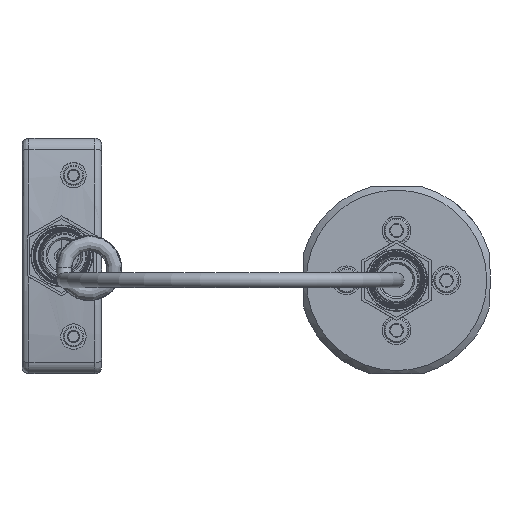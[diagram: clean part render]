
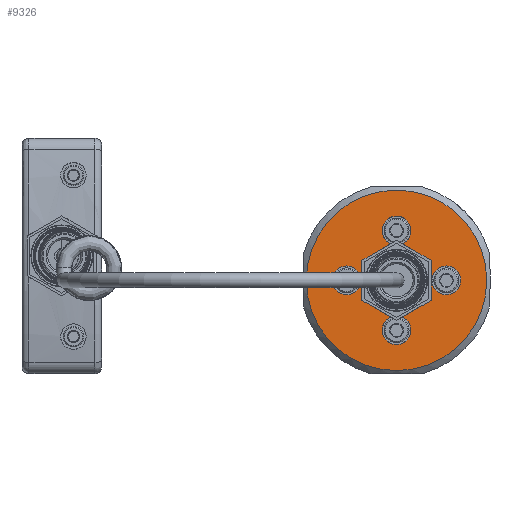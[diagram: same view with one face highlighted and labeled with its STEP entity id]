
A CAD part, left-side view. The second image highlights one B-rep face of the part: STEP entity #9326.
In plain terms, the highlighted planar face has unit normal (-1, 0, 0).
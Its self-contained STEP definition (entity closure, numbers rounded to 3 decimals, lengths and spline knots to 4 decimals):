
#333=FACE_BOUND('',#1350,.T.);
#334=FACE_BOUND('',#1351,.T.);
#335=FACE_BOUND('',#1352,.T.);
#416=PLANE('',#10012);
#760=FACE_OUTER_BOUND('',#1349,.T.);
#1349=EDGE_LOOP('',(#6673,#6674));
#1350=EDGE_LOOP('',(#6675,#6676,#6677,#6678,#6679,#6680,#6681,#6682,#6683));
#1351=EDGE_LOOP('',(#6684,#6685));
#1352=EDGE_LOOP('',(#6686,#6687));
#1902=CIRCLE('',#9867,0.815);
#1903=CIRCLE('',#9868,0.815);
#1904=CIRCLE('',#9871,0.13);
#1905=CIRCLE('',#9872,0.13);
#1908=CIRCLE('',#9876,0.13);
#1913=CIRCLE('',#9882,0.13);
#1914=CIRCLE('',#9883,0.13);
#1971=CIRCLE('',#10013,0.13);
#1972=CIRCLE('',#10014,0.13);
#2865=LINE('',#16920,#3320);
#2866=LINE('',#16922,#3321);
#2867=LINE('',#16924,#3322);
#2868=LINE('',#16930,#3323);
#2869=LINE('',#16932,#3324);
#2870=LINE('',#16933,#3325);
#3320=VECTOR('',#11146,1.);
#3321=VECTOR('',#11147,1.);
#3322=VECTOR('',#11148,1.);
#3323=VECTOR('',#11153,1.);
#3324=VECTOR('',#11154,1.);
#3325=VECTOR('',#11155,1.);
#3833=VERTEX_POINT('',#16391);
#3834=VERTEX_POINT('',#16392);
#3835=VERTEX_POINT('',#16399);
#3836=VERTEX_POINT('',#16400);
#3840=VERTEX_POINT('',#16410);
#3841=VERTEX_POINT('',#16412);
#3846=VERTEX_POINT('',#16425);
#3847=VERTEX_POINT('',#16426);
#3932=VERTEX_POINT('',#16919);
#3933=VERTEX_POINT('',#16921);
#3934=VERTEX_POINT('',#16923);
#3935=VERTEX_POINT('',#16925);
#3936=VERTEX_POINT('',#16927);
#3937=VERTEX_POINT('',#16929);
#3938=VERTEX_POINT('',#16931);
#4816=EDGE_CURVE('',#3833,#3834,#1902,.T.);
#4817=EDGE_CURVE('',#3834,#3833,#1903,.T.);
#4820=EDGE_CURVE('',#3835,#3836,#1904,.T.);
#4821=EDGE_CURVE('',#3836,#3835,#1905,.T.);
#4826=EDGE_CURVE('',#3841,#3840,#1908,.T.);
#4833=EDGE_CURVE('',#3846,#3847,#1913,.T.);
#4834=EDGE_CURVE('',#3847,#3846,#1914,.T.);
#4980=EDGE_CURVE('',#3840,#3932,#2865,.T.);
#4981=EDGE_CURVE('',#3932,#3933,#2866,.T.);
#4982=EDGE_CURVE('',#3933,#3934,#2867,.T.);
#4983=EDGE_CURVE('',#3934,#3935,#1971,.T.);
#4984=EDGE_CURVE('',#3935,#3936,#1972,.T.);
#4985=EDGE_CURVE('',#3936,#3937,#2868,.T.);
#4986=EDGE_CURVE('',#3937,#3938,#2869,.T.);
#4987=EDGE_CURVE('',#3938,#3841,#2870,.T.);
#6673=ORIENTED_EDGE('',*,*,#4816,.T.);
#6674=ORIENTED_EDGE('',*,*,#4817,.T.);
#6675=ORIENTED_EDGE('',*,*,#4980,.T.);
#6676=ORIENTED_EDGE('',*,*,#4981,.T.);
#6677=ORIENTED_EDGE('',*,*,#4982,.T.);
#6678=ORIENTED_EDGE('',*,*,#4983,.T.);
#6679=ORIENTED_EDGE('',*,*,#4984,.T.);
#6680=ORIENTED_EDGE('',*,*,#4985,.T.);
#6681=ORIENTED_EDGE('',*,*,#4986,.T.);
#6682=ORIENTED_EDGE('',*,*,#4987,.T.);
#6683=ORIENTED_EDGE('',*,*,#4826,.T.);
#6684=ORIENTED_EDGE('',*,*,#4820,.T.);
#6685=ORIENTED_EDGE('',*,*,#4821,.T.);
#6686=ORIENTED_EDGE('',*,*,#4833,.T.);
#6687=ORIENTED_EDGE('',*,*,#4834,.T.);
#9326=ADVANCED_FACE('',(#760,#333,#334,#335),#416,.T.);
#9867=AXIS2_PLACEMENT_3D('',#16393,#10787,#10788);
#9868=AXIS2_PLACEMENT_3D('',#16394,#10789,#10790);
#9871=AXIS2_PLACEMENT_3D('',#16401,#10797,#10798);
#9872=AXIS2_PLACEMENT_3D('',#16402,#10799,#10800);
#9876=AXIS2_PLACEMENT_3D('',#16413,#10809,#10810);
#9882=AXIS2_PLACEMENT_3D('',#16427,#10823,#10824);
#9883=AXIS2_PLACEMENT_3D('',#16428,#10825,#10826);
#10012=AXIS2_PLACEMENT_3D('',#16918,#11144,#11145);
#10013=AXIS2_PLACEMENT_3D('',#16926,#11149,#11150);
#10014=AXIS2_PLACEMENT_3D('',#16928,#11151,#11152);
#10787=DIRECTION('center_axis',(-1.,0.,0.));
#10788=DIRECTION('ref_axis',(0.,0.,-1.));
#10789=DIRECTION('center_axis',(-1.,0.,0.));
#10790=DIRECTION('ref_axis',(0.,0.,-1.));
#10797=DIRECTION('center_axis',(1.,0.,0.));
#10798=DIRECTION('ref_axis',(0.,0.,-1.));
#10799=DIRECTION('center_axis',(1.,0.,0.));
#10800=DIRECTION('ref_axis',(0.,0.,-1.));
#10809=DIRECTION('center_axis',(1.,0.,0.));
#10810=DIRECTION('ref_axis',(0.,0.,-1.));
#10823=DIRECTION('center_axis',(1.,0.,0.));
#10824=DIRECTION('ref_axis',(0.,0.,-1.));
#10825=DIRECTION('center_axis',(1.,0.,0.));
#10826=DIRECTION('ref_axis',(0.,0.,-1.));
#11144=DIRECTION('center_axis',(-1.,0.,0.));
#11145=DIRECTION('ref_axis',(0.,0.,1.));
#11146=DIRECTION('',(0.,0.866,0.5));
#11147=DIRECTION('',(0.,0.,1.));
#11148=DIRECTION('',(0.,-0.866,0.5));
#11149=DIRECTION('center_axis',(1.,0.,0.));
#11150=DIRECTION('ref_axis',(0.,0.,-1.));
#11151=DIRECTION('center_axis',(1.,0.,0.));
#11152=DIRECTION('ref_axis',(0.,0.,-1.));
#11153=DIRECTION('',(0.,-0.866,-0.5));
#11154=DIRECTION('',(0.,0.,-1.));
#11155=DIRECTION('',(0.,0.866,-0.5));
#16391=CARTESIAN_POINT('',(35.9258,-10.3913,8.132));
#16392=CARTESIAN_POINT('',(35.9258,-10.3913,9.762));
#16393=CARTESIAN_POINT('Origin',(35.9258,-10.3913,8.947));
#16394=CARTESIAN_POINT('Origin',(35.9258,-10.3913,8.947));
#16399=CARTESIAN_POINT('',(35.9258,-9.9413,8.817));
#16400=CARTESIAN_POINT('',(35.9258,-9.9413,9.077));
#16401=CARTESIAN_POINT('Origin',(35.9258,-9.9413,8.947));
#16402=CARTESIAN_POINT('Origin',(35.9258,-9.9413,8.947));
#16410=CARTESIAN_POINT('',(35.9258,-10.3393,8.6162));
#16412=CARTESIAN_POINT('',(35.9258,-10.4432,8.6162));
#16413=CARTESIAN_POINT('Origin',(35.9258,-10.3913,8.497));
#16425=CARTESIAN_POINT('',(35.9258,-10.8413,8.817));
#16426=CARTESIAN_POINT('',(35.9258,-10.8413,9.077));
#16427=CARTESIAN_POINT('Origin',(35.9258,-10.8413,8.947));
#16428=CARTESIAN_POINT('Origin',(35.9258,-10.8413,8.947));
#16918=CARTESIAN_POINT('Origin',(35.9258,-10.3913,8.947));
#16919=CARTESIAN_POINT('',(35.9258,-10.0788,8.7666));
#16920=CARTESIAN_POINT('',(35.9258,-10.1569,8.7215));
#16921=CARTESIAN_POINT('',(35.9258,-10.0788,9.1274));
#16922=CARTESIAN_POINT('',(35.9258,-10.0788,9.0372));
#16923=CARTESIAN_POINT('',(35.9258,-10.3393,9.2778));
#16924=CARTESIAN_POINT('',(35.9258,-10.3131,9.2627));
#16925=CARTESIAN_POINT('',(35.9258,-10.3913,9.527));
#16926=CARTESIAN_POINT('Origin',(35.9258,-10.3913,9.397));
#16927=CARTESIAN_POINT('',(35.9258,-10.4432,9.2778));
#16928=CARTESIAN_POINT('Origin',(35.9258,-10.3913,9.397));
#16929=CARTESIAN_POINT('',(35.9258,-10.7038,9.1274));
#16930=CARTESIAN_POINT('',(35.9258,-10.6256,9.1725));
#16931=CARTESIAN_POINT('',(35.9258,-10.7038,8.7666));
#16932=CARTESIAN_POINT('',(35.9258,-10.7038,8.8568));
#16933=CARTESIAN_POINT('',(35.9258,-10.4694,8.6313));
